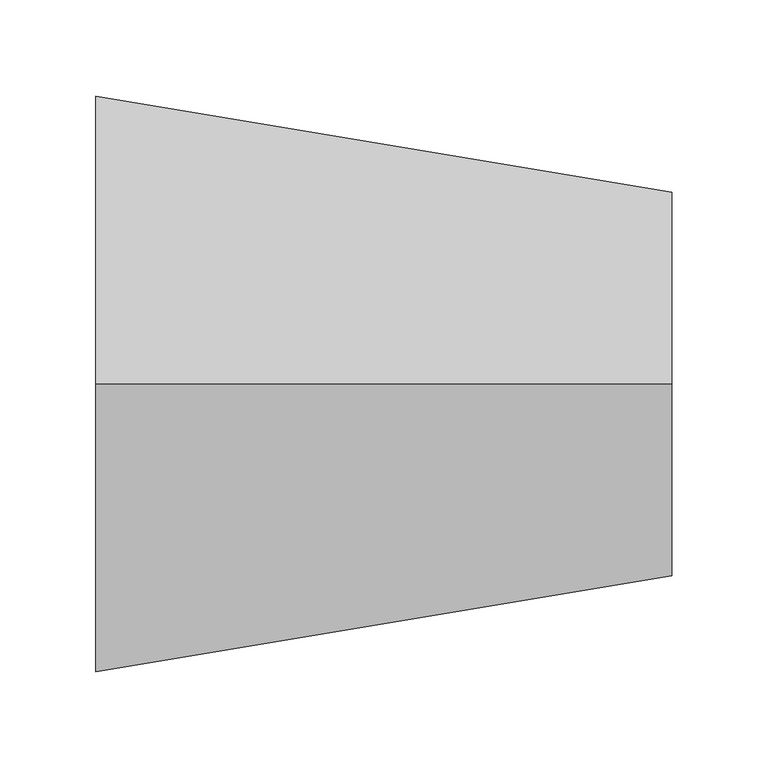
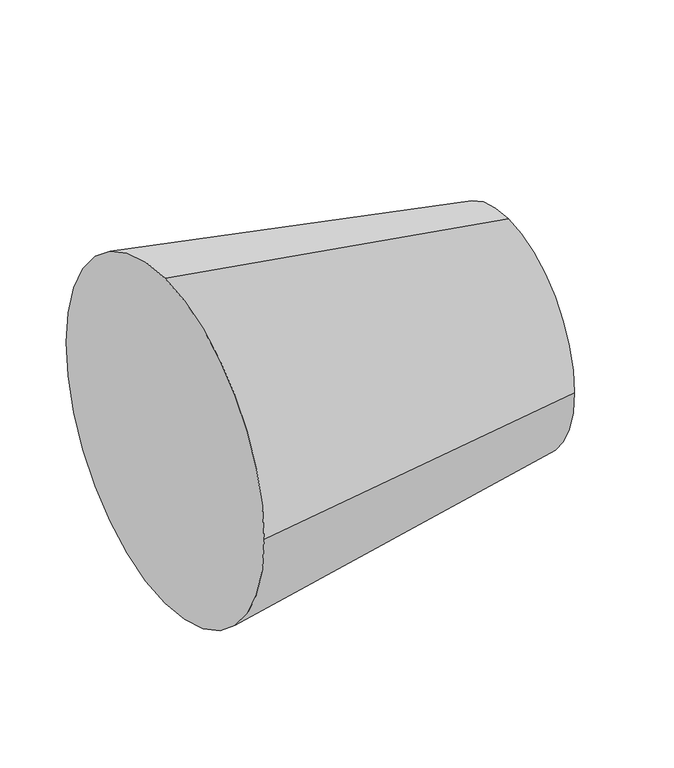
"""IFC4 building model written with IfcOpenShell, lengths in millimetres: duct fitting geometry, Переходник круглого сечения - Длина : Стандартное."""

import ifcopenshell
import ifcopenshell.guid

model = None  # the IFC model being written
_history = None  # IfcOwnerHistory: only IFC2X3 demands one
_inside = {}  # id of a spatial element -> (the spatial element, [elements in it])
_under = {}  # id of a project, library or spatial element -> (it, [spatial elements below it])
_declared = {}  # id of a project -> (the project, [libraries it declares])
_typed = {}  # id of a type object -> (the type object, [elements of that type])
_made_of = {}  # id of a material, layer set ... -> (it, [elements and type objects made of it])


def new_model(schema):
    """Start an empty IFC model of exactly this schema.

    Asked for "IFC4X3", IfcOpenShell would pick the latest addendum, in which some entities
    have other attributes; the version numbers below select the first issue.
    IFC2X3 requires an IfcOwnerHistory on every rooted entity: one is made here for all.
    """
    global model, _history
    if schema == "IFC4X3":
        model = ifcopenshell.file(schema_version=(4, 3, 0, 0))
    else:
        model = ifcopenshell.file(schema=schema)
    _inside.clear()
    _under.clear()
    _declared.clear()
    _typed.clear()
    _made_of.clear()
    _history = None
    if model.schema == "IFC2X3":
        org = make("IfcOrganization", Name="unknown")
        user = make(
            "IfcPersonAndOrganization",
            ThePerson=make("IfcPerson", FamilyName="unknown"),
            TheOrganization=org,
        )
        app = make(
            "IfcApplication",
            ApplicationDeveloper=org,
            Version="unknown",
            ApplicationFullName="unknown",
            ApplicationIdentifier="unknown",
        )
        _history = make(
            "IfcOwnerHistory",
            OwningUser=user,
            OwningApplication=app,
            ChangeAction="ADDED",
            CreationDate=0,
        )
    return model


def make(cls, **values):
    """One entity of the class cls with the attributes given. An attribute that is None is left unset."""
    return model.create_entity(
        cls, **{name: value for name, value in values.items() if value is not None}
    )


def rooted(cls, **values):
    """An entity with a GlobalId (a new one), such as an element, a storey or a relation."""
    return make(cls, GlobalId=ifcopenshell.guid.new(), OwnerHistory=_history, **values)


def si_unit(unit_type, name, prefix=None):
    """IfcSIUnit, for example si_unit("LENGTHUNIT", "METRE", prefix="MILLI")."""
    return make("IfcSIUnit", UnitType=unit_type, Prefix=prefix, Name=name)


def assignment(units):
    """IfcUnitAssignment: the units of a project."""
    return None if units is None else make("IfcUnitAssignment", Units=units)


def point(xyz):
    """IfcCartesianPoint."""
    return None if xyz is None else make("IfcCartesianPoint", Coordinates=xyz)


def direction(xyz):
    """IfcDirection."""
    return None if xyz is None else make("IfcDirection", DirectionRatios=xyz)


def frame(location, z_axis=None, x_axis=None):
    """IfcAxis2Placement3D, a coordinate frame: its origin and axes. An axis left out is left unset."""
    return make(
        "IfcAxis2Placement3D",
        Location=point(location),
        Axis=direction(z_axis),
        RefDirection=direction(x_axis),
    )


def origin():
    """The frame at (0, 0, 0) with its axes left unset."""
    return frame((0.0, 0.0, 0.0))


def place(relative_to, where):
    """IfcLocalPlacement: puts the frame where relative to a parent placement (None: the world)."""
    return make(
        "IfcLocalPlacement", PlacementRelTo=relative_to, RelativePlacement=where
    )


def context(
    kind, dimensions, precision=None, world=None, true_north=None, identifier=None
):
    """IfcGeometricRepresentationContext, for example the 3D "Model" context."""
    return make(
        "IfcGeometricRepresentationContext",
        ContextIdentifier=identifier,
        ContextType=kind,
        CoordinateSpaceDimension=dimensions,
        Precision=precision,
        WorldCoordinateSystem=world,
        TrueNorth=true_north,
    )


def project(units=None, contexts=None):
    """IfcProject with its units and contexts."""
    return rooted(
        "IfcProject",
        Name="project",
        RepresentationContexts=contexts,
        UnitsInContext=assignment(units),
    )


def spatial(cls, under=None, at=None, **own):
    """A site, building, storey or space (cls), placed at a placement, below another one or the project."""
    s = rooted(cls, ObjectPlacement=at, **own)
    if under is not None:
        _under.setdefault(under.id(), (under, []))[1].append(s)
    return s


def polyline(points):
    """IfcPolyline through the points."""
    return make("IfcPolyline", Points=[point(p) for p in points])


def circle_curve(where, radius):
    """IfcCircle in the frame where."""
    return make("IfcCircle", Position=where, Radius=radius)


def shape(context_of_items, identifier, shape_type, items):
    """IfcShapeRepresentation: the items that make up one representation, for example the "Body"."""
    return make(
        "IfcShapeRepresentation",
        ContextOfItems=context_of_items,
        RepresentationIdentifier=identifier,
        RepresentationType=shape_type,
        Items=items,
    )


def source(mapping_origin, context_of_items, identifier, shape_type, items):
    """IfcRepresentationMap: a shape defined once, which mapped items show again and again."""
    return make(
        "IfcRepresentationMap",
        MappingOrigin=mapping_origin,
        MappedRepresentation=shape(context_of_items, identifier, shape_type, items),
    )


def transform(
    local_origin,
    x_axis=None,
    y_axis=None,
    z_axis=None,
    scale=None,
    scale2=None,
    scale3=None,
    uniform=True,
):
    """IfcCartesianTransformationOperator3D, or its non-uniform kind. x_axis, y_axis, z_axis: its Axis1, 2, 3."""
    if uniform:
        return make(
            "IfcCartesianTransformationOperator3D",
            Axis1=direction(x_axis),
            Axis2=direction(y_axis),
            LocalOrigin=point(local_origin),
            Scale=scale,
            Axis3=direction(z_axis),
        )
    return make(
        "IfcCartesianTransformationOperator3DnonUniform",
        Axis1=direction(x_axis),
        Axis2=direction(y_axis),
        LocalOrigin=point(local_origin),
        Scale=scale,
        Axis3=direction(z_axis),
        Scale2=scale2,
        Scale3=scale3,
    )


def mapped(mapping_source, mapping_target):
    """IfcMappedItem: shows the shape of a source again, moved by a transform."""
    return make(
        "IfcMappedItem", MappingSource=mapping_source, MappingTarget=mapping_target
    )


def made_of(thing, what):
    """Note that an element or type object is made of a material, layer set ...; save() writes the relation."""
    if what is not None:
        _made_of.setdefault(what.id(), (what, []))[1].append(thing)
    return thing


def element(
    cls,
    number,
    at=None,
    inside=None,
    cuts=None,
    type_object=None,
    material=None,
    context=None,
    identifier="Body",
    shape_type=None,
    held_by="IfcProductDefinitionShape",
    body=None,
    shapes=None,
    **own,
):
    """One element of the class cls, such as IfcWall. Its Tag is "e" and its number.

    at: its placement. inside: the storey or other place that contains it. cuts: it is an
    opening in that element (IfcRelVoidsElement). A single representation is given by context,
    identifier, shape_type and body (its items); several are given by shapes. held_by: the class
    of the entity that holds the representations. save() writes the other relations.
    """
    e = rooted(cls, Tag="e%d" % number, ObjectPlacement=at, **own)
    if body is not None:
        shapes = [shape(context, identifier, shape_type, body)]
    if shapes is not None:
        e.Representation = make(held_by, Representations=shapes)
    if inside is not None:
        _inside.setdefault(inside.id(), (inside, []))[1].append(e)
    if cuts is not None:
        rooted(
            "IfcRelVoidsElement", RelatingBuildingElement=cuts, RelatedOpeningElement=e
        )
    if type_object is not None:
        _typed.setdefault(type_object.id(), (type_object, []))[1].append(e)
    return made_of(e, material)


def aggregate(whole, parts):
    """IfcRelAggregates: a whole, such as a stair, and the parts it consists of."""
    return rooted("IfcRelAggregates", RelatingObject=whole, RelatedObjects=parts)


def save(model, path):
    """Write the relations noted so far, then the file.

    IfcRelAggregates (storeys below a building ...), IfcRelContainedInSpatialStructure (elements
    in a storey), IfcRelDefinesByType, IfcRelAssociatesMaterial and IfcRelDeclares: one each for
    every whole, place, type object, material and project.
    """
    for whole, parts in _under.values():
        aggregate(whole, parts)
    for where, things in _inside.values():
        rooted(
            "IfcRelContainedInSpatialStructure",
            RelatedElements=things,
            RelatingStructure=where,
        )
    for kind, things in _typed.values():
        rooted("IfcRelDefinesByType", RelatedObjects=things, RelatingType=kind)
    for what, things in _made_of.values():
        rooted("IfcRelAssociatesMaterial", RelatedObjects=things, RelatingMaterial=what)
    for by, libraries in _declared.values():
        rooted("IfcRelDeclares", RelatingContext=by, RelatedDefinitions=libraries)
    model.write(path)


def plane_surface(at):
    """IfcPlane: the flat surface through the origin of the frame at, square to its z axis."""
    return make("IfcPlane", Position=at)


def revolved_surface(curve, axis_point, axis_direction):
    """IfcSurfaceOfRevolution: the curve turned about the line through axis_point along axis_direction."""
    return make(
        "IfcSurfaceOfRevolution",
        SweptCurve=make("IfcArbitraryOpenProfileDef", ProfileType="CURVE", Curve=curve),
        AxisPosition=make("IfcAxis1Placement", Location=point(axis_point), Axis=direction(axis_direction)),
    )


def advanced_brep(points, edges, surfaces, faces):
    """IfcAdvancedBrep: a solid bounded by faces that lie on surfaces and meet in shared edges.

    An edge is (start, end): straight between two places in points (the first is 0);
    or (start, end, curve); or (start, end, curve, False) where it runs against its curve.
    A face is (place in surfaces, loops), or (place, loops, False) where it looks against
    its surface's normal. A loop lists edges by number (the first is 1), with a minus sign
    where the edge is run from its end to its start. The first loop is the outer one.
    """
    corners = [point(p) for p in points]
    vertices = [make("IfcVertexPoint", VertexGeometry=c) for c in corners]
    made = []
    for start, end, *more in edges:
        made.append(
            make(
                "IfcEdgeCurve",
                EdgeStart=vertices[start],
                EdgeEnd=vertices[end],
                EdgeGeometry=more[0] if more else make("IfcPolyline", Points=[corners[start], corners[end]]),
                SameSense=more[1] if len(more) > 1 else True,
            )
        )
    hull = []
    for where, loops, *sense in faces:
        bounds = []
        for j, loop in enumerate(loops):
            ring = [make("IfcOrientedEdge", EdgeElement=made[abs(k) - 1], Orientation=k > 0) for k in loop]
            bounds.append(
                make(
                    "IfcFaceOuterBound" if j == 0 else "IfcFaceBound",
                    Bound=make("IfcEdgeLoop", EdgeList=ring),
                    Orientation=True,
                )
            )
        hull.append(make("IfcAdvancedFace", Bounds=bounds, FaceSurface=surfaces[where], SameSense=sense[0] if sense else True))
    return make("IfcAdvancedBrep", Outer=make("IfcClosedShell", CfsFaces=hull))


def duct_fitting_9d7b7e6b(model_context):
    return source(origin(), model_context, "Body", "AdvancedBrep", [
        advanced_brep(
        [(300.0, 100.0, 0.0), (300.0, 0.0, 100.0), (300.0, -100.0, 0.0), (300.0, 0.0, -100.0), (0.0, 150.0, 0.0), (0.0, 0.0, -150.0), (0.0, -150.0, 0.0), (0.0, 0.0, 150.0)],
        [
            (0, 1, circle_curve(frame((300.0, 0.0, 0.0), z_axis=(1.0, 0.0, 0.0), x_axis=(0.0, 1.0, 0.0)), 100.0)),
            (1, 2, circle_curve(frame((300.0, 0.0, 0.0), z_axis=(1.0, 0.0, 0.0), x_axis=(0.0, 0.0, 1.0)), 100.0)),
            (2, 3, circle_curve(frame((300.0, 0.0, 0.0), z_axis=(1.0, 0.0, 0.0), x_axis=(0.0, -1.0, 0.0)), 100.0)),
            (3, 0, circle_curve(frame((300.0, 0.0, 0.0), z_axis=(1.0, 0.0, 0.0), x_axis=(0.0, 0.0, -1.0)), 100.0)),
            (4, 5, circle_curve(frame((0.0, 0.0, 0.0), z_axis=(-1.0, 0.0, 0.0), x_axis=(0.0, 0.0, -1.0)), 150.0)),
            (5, 6, circle_curve(frame((0.0, 0.0, 0.0), z_axis=(-1.0, 0.0, 0.0), x_axis=(0.0, -1.0, 0.0)), 150.0)),
            (6, 7, circle_curve(frame((0.0, 0.0, 0.0), z_axis=(-1.0, 0.0, 0.0), x_axis=(0.0, 0.0, 1.0)), 150.0)),
            (7, 4, circle_curve(frame((0.0, 0.0, 0.0), z_axis=(-1.0, 0.0, 0.0), x_axis=(0.0, 1.0, 0.0)), 150.0)),
            (0, 4),
            (7, 1),
            (6, 2),
            (5, 3),
        ],
        [
            plane_surface(frame((300.0, 0.0, 0.0), z_axis=(1.0, 0.0, 0.0), x_axis=(0.0, 0.0, 1.0))),
            plane_surface(frame((0.0, 0.0, 0.0), z_axis=(-1.0, 0.0, 0.0), x_axis=(0.0, 0.0, 1.0))),
            revolved_surface(polyline([(300.0, 100.0, 0.0), (0.0, 150.0, 0.0)]), (900.0, 0.0, 0.0), (-1.0, 0.0, 0.0)),
            revolved_surface(polyline([(300.0, 0.0, 100.0), (0.0, 0.0, 150.0)]), (900.0, 0.0, 0.0), (-1.0, 0.0, 0.0)),
            revolved_surface(polyline([(300.0, -100.0, 0.0), (0.0, -150.0, 0.0)]), (900.0, 0.0, 0.0), (-1.0, 0.0, 0.0)),
            revolved_surface(polyline([(300.0, 0.0, -100.0), (0.0, 0.0, -150.0)]), (900.0, 0.0, 0.0), (-1.0, 0.0, 0.0)),
        ],
        [
            (0, [[1, 2, 3, 4]]),
            (1, [[5, 6, 7, 8]]),
            (2, [[-1, 9, -8, 10]]),
            (3, [[-2, -10, -7, 11]]),
            (4, [[-3, -11, -6, 12]]),
            (5, [[-4, -12, -5, -9]]),
        ],
    ),
    ])


if __name__ == "__main__":
    model = new_model("IFC4")
    model_context = context("Model", 3, world=origin())
    ifc_project = project(units=[si_unit("LENGTHUNIT", "METRE", prefix="MILLI")], contexts=[model_context])
    site = spatial("IfcSite", under=ifc_project)
    building = spatial("IfcBuilding", under=site)
    placement = place(None, origin())
    duct_fitting_shape = duct_fitting_9d7b7e6b(model_context)
    element("IfcDuctFitting", 1, ObjectType="Переходник круглого сечения - Длина : Стандартное", at=placement, inside=building, context=model_context, shape_type="MappedRepresentation", body=[
        mapped(duct_fitting_shape, transform((0.0, 0.0, 0.0), x_axis=(1.0, 0.0, 0.0), y_axis=(0.0, 1.0, 0.0), z_axis=(0.0, 0.0, 1.0))),
    ])
    save(model, "model.ifc")
